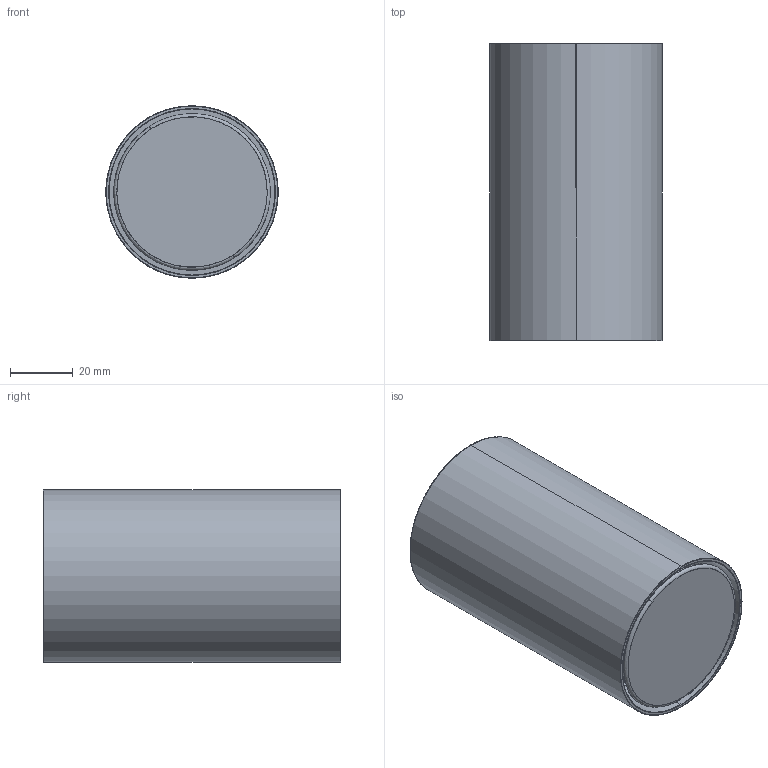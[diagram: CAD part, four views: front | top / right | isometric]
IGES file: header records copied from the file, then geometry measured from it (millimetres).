
Start section: SolidWorks IGES file using analytic representation for surfaces
Global section: file name: C:\Users\ppp\Desktop\Nowodvorski\Modele 3D_lampy\Lampy Katalogowe\Eye\S\Eye S_GU10.IGS; native system: SolidWorks 2012; preprocessor: SolidWorks 2012; author: ppp; date: 151008.150438; units: millimetre
Bounding box: 55 x 95 x 55 mm (x, y, z)
Surface area: 50575.7 mm2 (no closed solid volume)
Topology: 0 solids, 0 shells, 64 faces, 1312 edges, 1306 vertices
Faces by surface type: bspline 36, revolution 28
